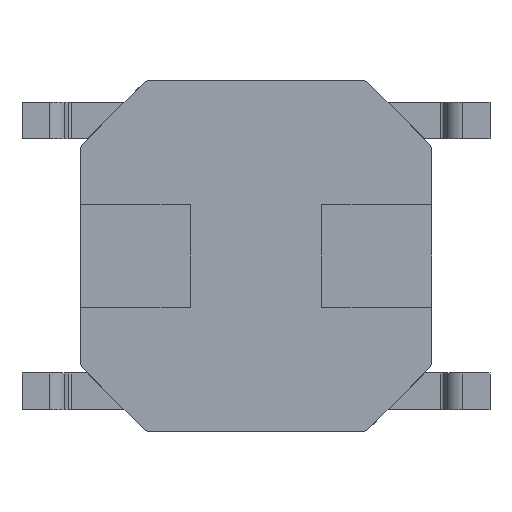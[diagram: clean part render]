
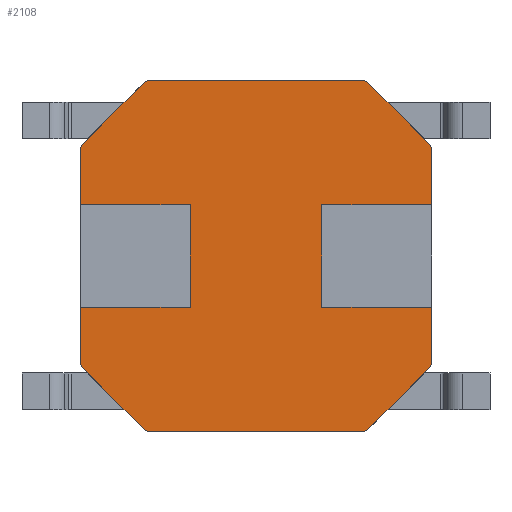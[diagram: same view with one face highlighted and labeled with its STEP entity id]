
A CAD part, front view. The second image highlights one B-rep face of the part: STEP entity #2108.
In plain terms, the highlighted planar face has unit normal (0, -1, 0).
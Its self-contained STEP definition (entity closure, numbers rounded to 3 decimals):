
#1=CARTESIAN_POINT('',(2.3,0.,-1.459));
#2=DIRECTION('',(0.,1.,0.));
#3=DIRECTION('',(1.,0.,0.));
#4=AXIS2_PLACEMENT_3D('',#1,#2,#3);
#6=DIRECTION('',(-0.707,0.,-0.707));
#7=VECTOR('',#6,1.19);
#8=CARTESIAN_POINT('',(2.371,0.,-1.529));
#9=LINE('',#8,#7);
#10=CARTESIAN_POINT('',(1.459,0.,-2.3));
#11=DIRECTION('',(0.,1.,0.));
#12=DIRECTION('',(0.707,0.,-0.707));
#13=AXIS2_PLACEMENT_3D('',#10,#11,#12);
#15=CARTESIAN_POINT('',(-1.459,0.,-2.3));
#16=DIRECTION('',(0.,1.,0.));
#17=DIRECTION('',(0.,0.,-1.));
#18=AXIS2_PLACEMENT_3D('',#15,#16,#17);
#20=DIRECTION('',(-0.707,0.,0.707));
#21=VECTOR('',#20,1.19);
#22=CARTESIAN_POINT('',(-1.529,0.,-2.371));
#23=LINE('',#22,#21);
#24=CARTESIAN_POINT('',(-2.3,0.,-1.459));
#25=DIRECTION('',(0.,1.,0.));
#26=DIRECTION('',(-0.707,0.,-0.707));
#27=AXIS2_PLACEMENT_3D('',#24,#25,#26);
#29=CARTESIAN_POINT('',(-2.3,0.,1.459));
#30=DIRECTION('',(0.,1.,0.));
#31=DIRECTION('',(-1.,0.,0.));
#32=AXIS2_PLACEMENT_3D('',#29,#30,#31);
#34=DIRECTION('',(0.707,0.,0.707));
#35=VECTOR('',#34,1.19);
#36=CARTESIAN_POINT('',(-2.371,0.,1.529));
#37=LINE('',#36,#35);
#38=CARTESIAN_POINT('',(-1.459,0.,2.3));
#39=DIRECTION('',(0.,1.,0.));
#40=DIRECTION('',(-0.707,0.,0.707));
#41=AXIS2_PLACEMENT_3D('',#38,#39,#40);
#43=CARTESIAN_POINT('',(1.459,0.,2.3));
#44=DIRECTION('',(0.,1.,0.));
#45=DIRECTION('',(0.,0.,1.));
#46=AXIS2_PLACEMENT_3D('',#43,#44,#45);
#48=DIRECTION('',(0.707,0.,-0.707));
#49=VECTOR('',#48,1.19);
#50=CARTESIAN_POINT('',(1.529,0.,2.371));
#51=LINE('',#50,#49);
#52=CARTESIAN_POINT('',(2.3,0.,1.459));
#53=DIRECTION('',(0.,1.,0.));
#54=DIRECTION('',(0.707,0.,0.707));
#55=AXIS2_PLACEMENT_3D('',#52,#53,#54);
#57=DIRECTION('',(0.,0.,1.));
#58=VECTOR('',#57,1.4);
#59=CARTESIAN_POINT('',(0.9,0.,-0.7));
#60=LINE('',#59,#58);
#65=DIRECTION('',(1.,0.,0.));
#66=VECTOR('',#65,1.5);
#67=CARTESIAN_POINT('',(0.9,0.,0.7));
#68=LINE('',#67,#66);
#81=DIRECTION('',(0.,0.,1.));
#82=VECTOR('',#81,0.759);
#83=CARTESIAN_POINT('',(2.4,0.,0.7));
#84=LINE('',#83,#82);
#85=DIRECTION('',(0.,0.,1.));
#86=VECTOR('',#85,0.759);
#87=CARTESIAN_POINT('',(2.4,0.,-1.459));
#88=LINE('',#87,#86);
#391=DIRECTION('',(0.,0.,-1.));
#392=VECTOR('',#391,0.759);
#393=CARTESIAN_POINT('',(-2.4,0.,-0.7));
#394=LINE('',#393,#392);
#403=DIRECTION('',(0.,0.,-1.));
#404=VECTOR('',#403,0.759);
#405=CARTESIAN_POINT('',(-2.4,0.,1.459));
#406=LINE('',#405,#404);
#407=DIRECTION('',(1.,0.,0.));
#408=VECTOR('',#407,1.5);
#409=CARTESIAN_POINT('',(-2.4,0.,0.7));
#410=LINE('',#409,#408);
#415=DIRECTION('',(0.,0.,-1.));
#416=VECTOR('',#415,1.4);
#417=CARTESIAN_POINT('',(-0.9,0.,0.7));
#418=LINE('',#417,#416);
#423=DIRECTION('',(-1.,0.,0.));
#424=VECTOR('',#423,1.5);
#425=CARTESIAN_POINT('',(-0.9,0.,-0.7));
#426=LINE('',#425,#424);
#467=DIRECTION('',(-1.,0.,0.));
#468=VECTOR('',#467,2.917);
#469=CARTESIAN_POINT('',(1.459,0.,2.4));
#470=LINE('',#469,#468);
#787=DIRECTION('',(1.,0.,0.));
#788=VECTOR('',#787,2.917);
#789=CARTESIAN_POINT('',(-1.459,0.,-2.4));
#790=LINE('',#789,#788);
#1549=DIRECTION('',(-1.,0.,0.));
#1550=VECTOR('',#1549,1.5);
#1551=CARTESIAN_POINT('',(2.4,0.,-0.7));
#1552=LINE('',#1551,#1550);
#1557=CARTESIAN_POINT('',(2.4,0.,-0.7));
#1558=CARTESIAN_POINT('',(0.9,0.,-0.7));
#1559=VERTEX_POINT('',#1557);
#1560=VERTEX_POINT('',#1558);
#1561=CARTESIAN_POINT('',(2.4,0.,-1.459));
#1562=CARTESIAN_POINT('',(2.371,0.,-1.529));
#1563=VERTEX_POINT('',#1561);
#1564=VERTEX_POINT('',#1562);
#1565=CARTESIAN_POINT('',(1.529,0.,-2.371));
#1566=VERTEX_POINT('',#1565);
#1567=CARTESIAN_POINT('',(1.459,0.,-2.4));
#1568=VERTEX_POINT('',#1567);
#1569=CARTESIAN_POINT('',(-1.459,0.,-2.4));
#1570=CARTESIAN_POINT('',(-1.529,0.,-2.371));
#1571=VERTEX_POINT('',#1569);
#1572=VERTEX_POINT('',#1570);
#1573=CARTESIAN_POINT('',(-2.371,0.,-1.529));
#1574=VERTEX_POINT('',#1573);
#1575=CARTESIAN_POINT('',(-2.4,0.,-1.459));
#1576=VERTEX_POINT('',#1575);
#1577=CARTESIAN_POINT('',(-0.9,0.,0.7));
#1578=CARTESIAN_POINT('',(-0.9,0.,-0.7));
#1579=VERTEX_POINT('',#1577);
#1580=VERTEX_POINT('',#1578);
#1581=CARTESIAN_POINT('',(-2.4,0.,0.7));
#1582=VERTEX_POINT('',#1581);
#1583=CARTESIAN_POINT('',(-2.4,0.,1.459));
#1584=CARTESIAN_POINT('',(-2.371,0.,1.529));
#1585=VERTEX_POINT('',#1583);
#1586=VERTEX_POINT('',#1584);
#1587=CARTESIAN_POINT('',(-1.529,0.,2.371));
#1588=VERTEX_POINT('',#1587);
#1589=CARTESIAN_POINT('',(-1.459,0.,2.4));
#1590=VERTEX_POINT('',#1589);
#1591=CARTESIAN_POINT('',(1.459,0.,2.4));
#1592=CARTESIAN_POINT('',(1.529,0.,2.371));
#1593=VERTEX_POINT('',#1591);
#1594=VERTEX_POINT('',#1592);
#1595=CARTESIAN_POINT('',(2.371,0.,1.529));
#1596=VERTEX_POINT('',#1595);
#1597=CARTESIAN_POINT('',(2.4,0.,1.459));
#1598=VERTEX_POINT('',#1597);
#1599=CARTESIAN_POINT('',(0.9,0.,0.7));
#1600=VERTEX_POINT('',#1599);
#1603=CARTESIAN_POINT('',(2.4,0.,0.7));
#1604=VERTEX_POINT('',#1603);
#1651=CARTESIAN_POINT('',(-2.4,0.,-0.7));
#1653=VERTEX_POINT('',#1651);
#2053=CARTESIAN_POINT('',(0.,0.,0.));
#2054=DIRECTION('',(0.,1.,0.));
#2055=DIRECTION('',(1.,0.,0.));
#2056=AXIS2_PLACEMENT_3D('',#2053,#2054,#2055);
#2057=PLANE('',#2056);
#2059=ORIENTED_EDGE('',*,*,#2058,.F.);
#2061=ORIENTED_EDGE('',*,*,#2060,.F.);
#2063=ORIENTED_EDGE('',*,*,#2062,.F.);
#2065=ORIENTED_EDGE('',*,*,#2064,.T.);
#2067=ORIENTED_EDGE('',*,*,#2066,.T.);
#2069=ORIENTED_EDGE('',*,*,#2068,.T.);
#2071=ORIENTED_EDGE('',*,*,#2070,.F.);
#2073=ORIENTED_EDGE('',*,*,#2072,.T.);
#2075=ORIENTED_EDGE('',*,*,#2074,.T.);
#2077=ORIENTED_EDGE('',*,*,#2076,.T.);
#2079=ORIENTED_EDGE('',*,*,#2078,.F.);
#2081=ORIENTED_EDGE('',*,*,#2080,.F.);
#2083=ORIENTED_EDGE('',*,*,#2082,.F.);
#2085=ORIENTED_EDGE('',*,*,#2084,.F.);
#2087=ORIENTED_EDGE('',*,*,#2086,.F.);
#2089=ORIENTED_EDGE('',*,*,#2088,.T.);
#2091=ORIENTED_EDGE('',*,*,#2090,.T.);
#2093=ORIENTED_EDGE('',*,*,#2092,.T.);
#2095=ORIENTED_EDGE('',*,*,#2094,.F.);
#2097=ORIENTED_EDGE('',*,*,#2096,.T.);
#2099=ORIENTED_EDGE('',*,*,#2098,.T.);
#2101=ORIENTED_EDGE('',*,*,#2100,.T.);
#2103=ORIENTED_EDGE('',*,*,#2102,.F.);
#2105=ORIENTED_EDGE('',*,*,#2104,.F.);
#2106=EDGE_LOOP('',(#2059,#2061,#2063,#2065,#2067,#2069,#2071,#2073,#2075,#2077,
#2079,#2081,#2083,#2085,#2087,#2089,#2091,#2093,#2095,#2097,#2099,#2101,#2103,
#2105));
#2107=FACE_OUTER_BOUND('',#2106,.F.);
#5=CIRCLE('',#4,0.1);
#14=CIRCLE('',#13,0.1);
#19=CIRCLE('',#18,0.1);
#28=CIRCLE('',#27,0.1);
#33=CIRCLE('',#32,0.1);
#42=CIRCLE('',#41,0.1);
#47=CIRCLE('',#46,0.1);
#56=CIRCLE('',#55,0.1);
#2058=EDGE_CURVE('',#1560,#1600,#60,.T.);
#2060=EDGE_CURVE('',#1559,#1560,#1552,.T.);
#2062=EDGE_CURVE('',#1563,#1559,#88,.T.);
#2064=EDGE_CURVE('',#1563,#1564,#5,.T.);
#2066=EDGE_CURVE('',#1564,#1566,#9,.T.);
#2068=EDGE_CURVE('',#1566,#1568,#14,.T.);
#2070=EDGE_CURVE('',#1571,#1568,#790,.T.);
#2072=EDGE_CURVE('',#1571,#1572,#19,.T.);
#2074=EDGE_CURVE('',#1572,#1574,#23,.T.);
#2076=EDGE_CURVE('',#1574,#1576,#28,.T.);
#2078=EDGE_CURVE('',#1653,#1576,#394,.T.);
#2080=EDGE_CURVE('',#1580,#1653,#426,.T.);
#2082=EDGE_CURVE('',#1579,#1580,#418,.T.);
#2084=EDGE_CURVE('',#1582,#1579,#410,.T.);
#2086=EDGE_CURVE('',#1585,#1582,#406,.T.);
#2088=EDGE_CURVE('',#1585,#1586,#33,.T.);
#2090=EDGE_CURVE('',#1586,#1588,#37,.T.);
#2092=EDGE_CURVE('',#1588,#1590,#42,.T.);
#2094=EDGE_CURVE('',#1593,#1590,#470,.T.);
#2096=EDGE_CURVE('',#1593,#1594,#47,.T.);
#2098=EDGE_CURVE('',#1594,#1596,#51,.T.);
#2100=EDGE_CURVE('',#1596,#1598,#56,.T.);
#2102=EDGE_CURVE('',#1604,#1598,#84,.T.);
#2104=EDGE_CURVE('',#1600,#1604,#68,.T.);
#2108=ADVANCED_FACE('',(#2107),#2057,.F.);
